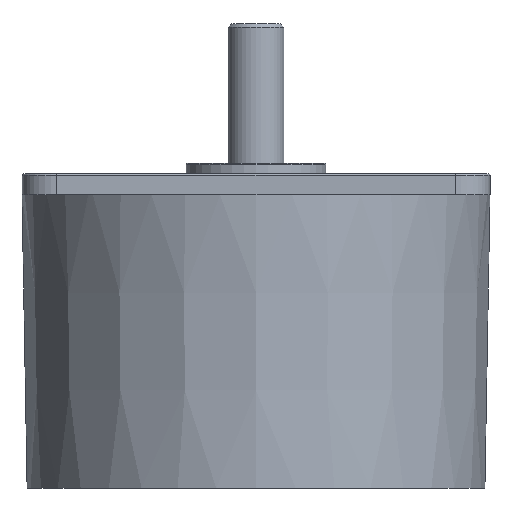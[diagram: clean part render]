
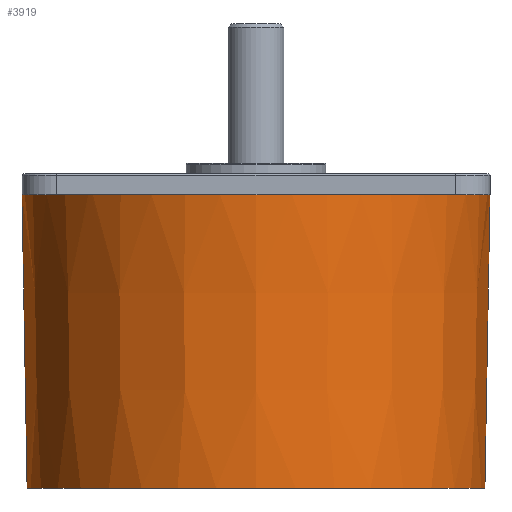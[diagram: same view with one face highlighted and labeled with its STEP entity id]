
A CAD part, front view. The second image highlights one B-rep face of the part: STEP entity #3919.
In plain terms, the highlighted conical face has half-angle 1 degrees and reference radius 33.5 mm.
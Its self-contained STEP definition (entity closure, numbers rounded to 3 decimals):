
#113 = VERTEX_POINT ( 'NONE', #1857 ) ;
#173 = VERTEX_POINT ( 'NONE', #1814 ) ;
#211 = VERTEX_POINT ( 'NONE', #2087 ) ;
#220 = VERTEX_POINT ( 'NONE', #2004 ) ;
#223 = EDGE_CURVE ( 'NONE', #238, #253, #1989, .T. ) ;
#224 = EDGE_CURVE ( 'NONE', #220, #211, #2075, .T. ) ;
#238 = VERTEX_POINT ( 'NONE', #2115 ) ;
#253 = VERTEX_POINT ( 'NONE', #2148 ) ;
#1814 = CARTESIAN_POINT ( 'NONE',  ( -23.355, -24.017, 0. ) ) ;
#1857 = CARTESIAN_POINT ( 'NONE',  ( -24.017, -23.355, 0. ) ) ;
#1988 = CARTESIAN_POINT ( 'NONE',  ( -33.5, 0., 0. ) ) ;
#1989 = LINE ( 'NONE', #1988, #2080 ) ;
#2004 = CARTESIAN_POINT ( 'NONE',  ( 32.767, 0., -42. ) ) ;
#2072 = DIRECTION ( 'NONE',  ( 0.017, 0., 1. ) ) ;
#2073 = VECTOR ( 'NONE', #2072, 1000. ) ;
#2074 = CARTESIAN_POINT ( 'NONE',  ( 33.5, 0., 0. ) ) ;
#2075 = LINE ( 'NONE', #2074, #2073 ) ;
#2079 = DIRECTION ( 'NONE',  ( -0.017, 0., 1. ) ) ;
#2080 = VECTOR ( 'NONE', #2079, 1000. ) ;
#2087 = CARTESIAN_POINT ( 'NONE',  ( 33.5, 0., 0. ) ) ;
#2115 = CARTESIAN_POINT ( 'NONE',  ( -32.767, 0., -42. ) ) ;
#2148 = CARTESIAN_POINT ( 'NONE',  ( -33.5, 0., 0. ) ) ;
#3890 = EDGE_CURVE ( 'NONE', #173, #3986, #4639, .T. ) ;
#3917 = ORIENTED_EDGE ( 'NONE', *, *, #3929, .F. ) ;
#3919 = ADVANCED_FACE ( 'NONE', ( #4569 ), #4531, .T. ) ;
#3920 = EDGE_CURVE ( 'NONE', #238, #220, #4575, .T. ) ;
#3921 = ORIENTED_EDGE ( 'NONE', *, *, #4062, .F. ) ;
#3924 = VERTEX_POINT ( 'NONE', #4568 ) ;
#3927 = EDGE_LOOP ( 'NONE', ( #3934, #4059, #4061, #3917, #3921, #3928, #4065, #4064, #4060 ) ) ;
#3928 = ORIENTED_EDGE ( 'NONE', *, *, #3997, .F. ) ;
#3929 = EDGE_CURVE ( 'NONE', #3924, #211, #4443, .T. ) ;
#3934 = ORIENTED_EDGE ( 'NONE', *, *, #223, .F. ) ;
#3986 = VERTEX_POINT ( 'NONE', #4842 ) ;
#3988 = EDGE_CURVE ( 'NONE', #253, #113, #4903, .T. ) ;
#3997 = EDGE_CURVE ( 'NONE', #3986, #4114, #4789, .T. ) ;
#4059 = ORIENTED_EDGE ( 'NONE', *, *, #3920, .T. ) ;
#4060 = ORIENTED_EDGE ( 'NONE', *, *, #3988, .F. ) ;
#4061 = ORIENTED_EDGE ( 'NONE', *, *, #224, .T. ) ;
#4062 = EDGE_CURVE ( 'NONE', #4114, #3924, #4765, .T. ) ;
#4064 = ORIENTED_EDGE ( 'NONE', *, *, #4161, .F. ) ;
#4065 = ORIENTED_EDGE ( 'NONE', *, *, #3890, .F. ) ;
#4114 = VERTEX_POINT ( 'NONE', #4993 ) ;
#4161 = EDGE_CURVE ( 'NONE', #113, #173, #5050, .T. ) ;
#4439 = DIRECTION ( 'NONE',  ( 1., 0., 0. ) ) ;
#4440 = DIRECTION ( 'NONE',  ( 0., 0., 1. ) ) ;
#4441 = CARTESIAN_POINT ( 'NONE',  ( 0., 0., 0. ) ) ;
#4442 = AXIS2_PLACEMENT_3D ( 'NONE', #4441, #4440, #4439 ) ;
#4443 = CIRCLE ( 'NONE', #4442, 33.5 ) ;
#4531 = CONICAL_SURFACE ( 'NONE', #4567, 33.5, 0.017 ) ;
#4560 = DIRECTION ( 'NONE',  ( 1., 0., 0. ) ) ;
#4561 = DIRECTION ( 'NONE',  ( 0., 0., 1. ) ) ;
#4562 = AXIS2_PLACEMENT_3D ( 'NONE', #4573, #4561, #4560 ) ;
#4564 = DIRECTION ( 'NONE',  ( 1., 0., 0. ) ) ;
#4565 = DIRECTION ( 'NONE',  ( 0., 0., 1. ) ) ;
#4566 = CARTESIAN_POINT ( 'NONE',  ( 0., 0., 0. ) ) ;
#4567 = AXIS2_PLACEMENT_3D ( 'NONE', #4566, #4565, #4564 ) ;
#4568 = CARTESIAN_POINT ( 'NONE',  ( 24.017, -23.355, 0. ) ) ;
#4569 = FACE_OUTER_BOUND ( 'NONE', #3927, .T. ) ;
#4573 = CARTESIAN_POINT ( 'NONE',  ( 0., 0., -42. ) ) ;
#4575 = CIRCLE ( 'NONE', #4562, 32.767 ) ;
#4623 = DIRECTION ( 'NONE',  ( 1., 0., 0. ) ) ;
#4624 = DIRECTION ( 'NONE',  ( 0., 0., 1. ) ) ;
#4629 = AXIS2_PLACEMENT_3D ( 'NONE', #4641, #4624, #4623 ) ;
#4639 = CIRCLE ( 'NONE', #4629, 33.5 ) ;
#4641 = CARTESIAN_POINT ( 'NONE',  ( 0., 0., 0. ) ) ;
#4765 = CIRCLE ( 'NONE', #4807, 33.5 ) ;
#4780 = DIRECTION ( 'NONE',  ( 1., 0., 0. ) ) ;
#4781 = DIRECTION ( 'NONE',  ( 0., 0., 1. ) ) ;
#4782 = AXIS2_PLACEMENT_3D ( 'NONE', #4788, #4781, #4780 ) ;
#4788 = CARTESIAN_POINT ( 'NONE',  ( 0., 0., 0. ) ) ;
#4789 = CIRCLE ( 'NONE', #4782, 33.5 ) ;
#4805 = DIRECTION ( 'NONE',  ( 1., 0., 0. ) ) ;
#4806 = DIRECTION ( 'NONE',  ( 0., 0., 1. ) ) ;
#4807 = AXIS2_PLACEMENT_3D ( 'NONE', #4810, #4806, #4805 ) ;
#4810 = CARTESIAN_POINT ( 'NONE',  ( 0., 0., 0. ) ) ;
#4842 = CARTESIAN_POINT ( 'NONE',  ( 0., -33.5, 0. ) ) ;
#4897 = DIRECTION ( 'NONE',  ( 1., 0., 0. ) ) ;
#4898 = DIRECTION ( 'NONE',  ( 0., 0., 1. ) ) ;
#4899 = CARTESIAN_POINT ( 'NONE',  ( 0., 0., 0. ) ) ;
#4900 = AXIS2_PLACEMENT_3D ( 'NONE', #4899, #4898, #4897 ) ;
#4903 = CIRCLE ( 'NONE', #4900, 33.5 ) ;
#4993 = CARTESIAN_POINT ( 'NONE',  ( 23.355, -24.017, 0. ) ) ;
#5047 = DIRECTION ( 'NONE',  ( 1., 0., 0. ) ) ;
#5048 = DIRECTION ( 'NONE',  ( 0., 0., 1. ) ) ;
#5049 = AXIS2_PLACEMENT_3D ( 'NONE', #5056, #5048, #5047 ) ;
#5050 = CIRCLE ( 'NONE', #5049, 33.5 ) ;
#5056 = CARTESIAN_POINT ( 'NONE',  ( 0., 0., 0. ) ) ;
